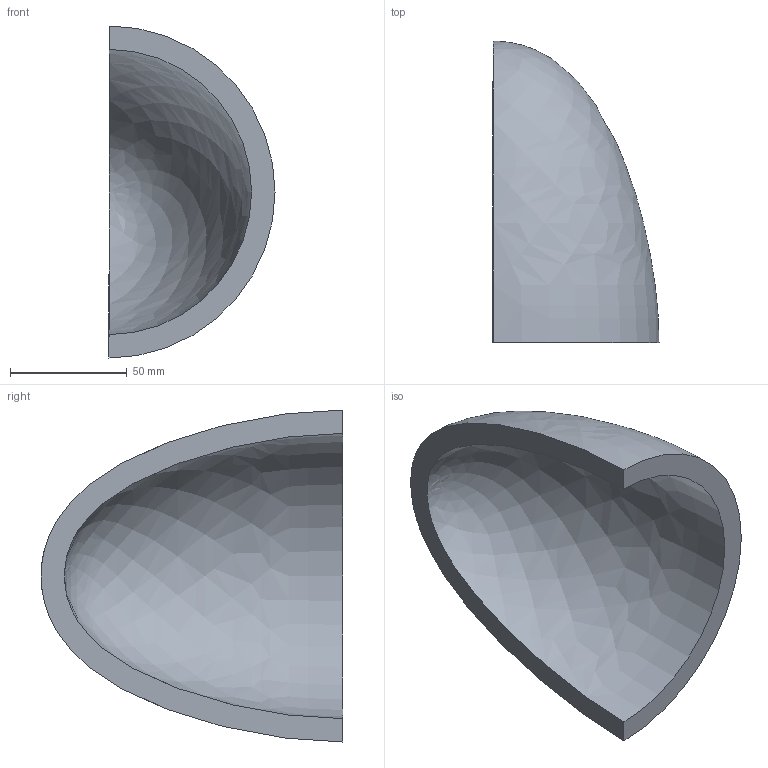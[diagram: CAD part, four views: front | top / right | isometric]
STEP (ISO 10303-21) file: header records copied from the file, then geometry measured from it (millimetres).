
FILE_DESCRIPTION(('CATIA V5 STEP Exchange'),'2;1');
FILE_NAME('C:\_Andres\UNIVERSIDAD\IQS\ASIGNATURAS\DAO\EXF\EXF-16172c\2inicio\Sala_Ferrero_Ej10_v29.stp','2017-03-05T22:31:15+00:00',('none'),('none'),'CATIA Version 5-6 Release 2014 SP1 HF18','CATIA V5 STEP AP203','none');
FILE_SCHEMA(('CONFIG_CONTROL_DESIGN'));
Length unit declared in the file: millimetre
Products named in the file (1): Sala_Ferrero_Ej10_v29
Bounding box: 71 x 129 x 142 mm (x, y, z)
Volume: 220317.6 mm3; surface area: 49296.3 mm2
Topology: 1 solids, 1 shells, 4 faces, 10 edges, 6 vertices
Faces by surface type: revolution 2, plane 2
Entity records: 248 total; most frequent: CARTESIAN_POINT 126, ORIENTED_EDGE 16, DIRECTION 10, EDGE_CURVE 8, B_SPLINE_CURVE_WITH_KNOTS 6, VERTEX_POINT 6, AXIS2_PLACEMENT_3D 5, ADVANCED_FACE 4
